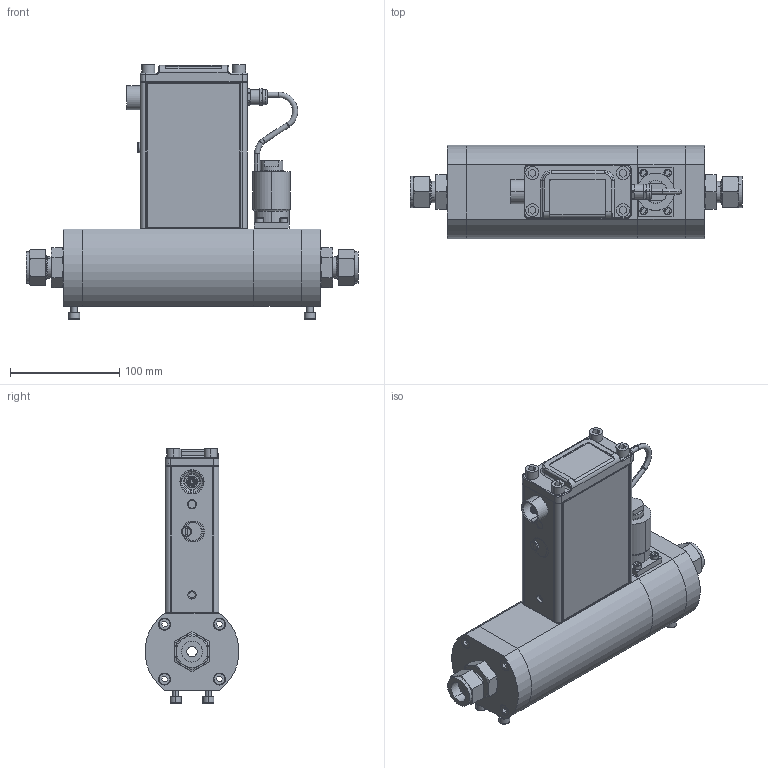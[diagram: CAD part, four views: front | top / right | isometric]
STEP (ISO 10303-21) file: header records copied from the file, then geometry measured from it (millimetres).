
FILE_DESCRIPTION (( 'STEP AP203' ), '1' );
FILE_NAME ('SLAMF53-A-2E-2-Y-REVB.STEP', '2020-09-24T20:12:59', ( '' ), ( '' ), 'SwSTEP 2.0', 'SolidWorks 2020', '' );
FILE_SCHEMA (( 'CONFIG_CONTROL_DESIGN' ));
Length unit declared in the file: inch
Products named in the file (1): SLAMF53-A-2E-2-Y-REVB
Bounding box: 303.47 x 85.69 x 233.03 mm (x, y, z)
Surface area: 909657.3 mm2 (no closed solid volume)
Topology: 0 solids, 149 shells, 2811 faces, 6665 edges, 4241 vertices
Faces by surface type: plane 1190, cylinder 1019, cone 344, torus 239, bspline 18, sphere 1
Entity records: 83734 total; most frequent: CARTESIAN_POINT 16155, DIRECTION 14973, ORIENTED_EDGE 13290, EDGE_CURVE 6650, AXIS2_PLACEMENT_3D 5723, VERTEX_POINT 4239, VECTOR 3527, LINE 3527
